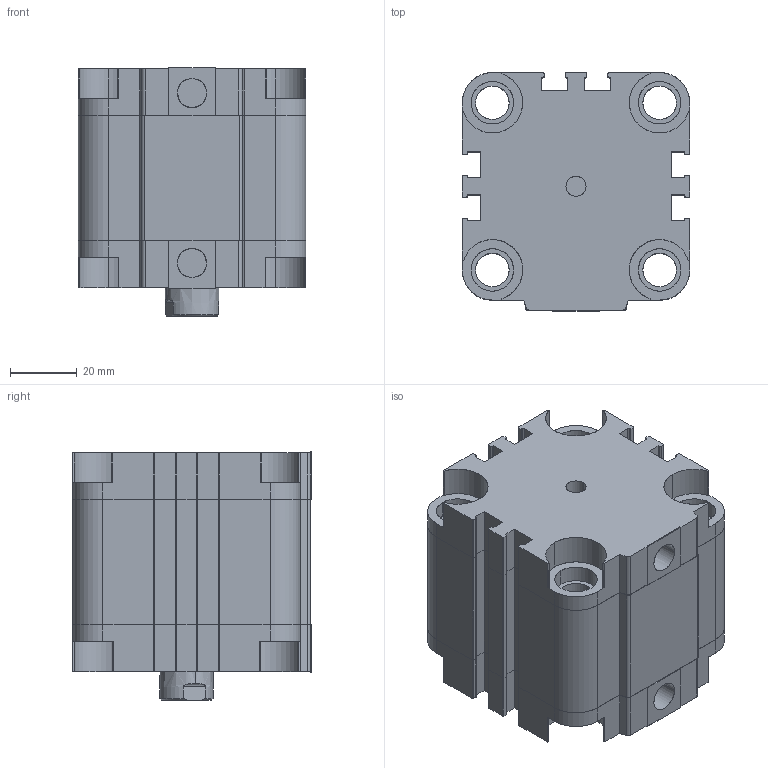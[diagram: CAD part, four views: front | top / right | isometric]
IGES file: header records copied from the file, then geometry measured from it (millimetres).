
Start section: SolidWorks IGES file using analytic representation for surfaces
Global section: file name: D:\ARICA 3D 禽Z軲LER\3D IGES\ADVU\ADVU 50\ADVU50X20-CYLINDER.IGS,1; native system: 5HSolidWorks 2013; preprocessor: SolidWorks 2013; author: user; date: 150520.150348; units: millimetre
Bounding box: 68 x 71.3 x 74.28 mm (x, y, z)
Surface area: 71573.1 mm2 (no closed solid volume)
Topology: 0 solids, 0 shells, 487 faces, 7633 edges, 7633 vertices
Faces by surface type: revolution 260, bspline 227
